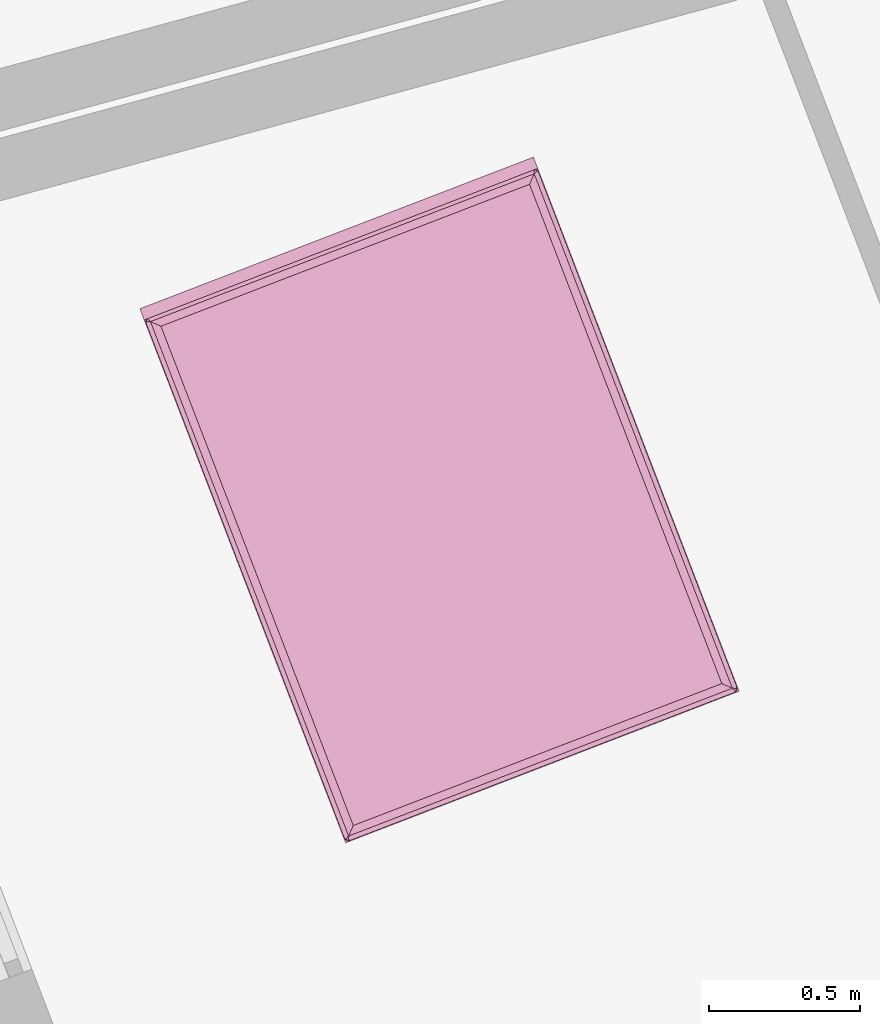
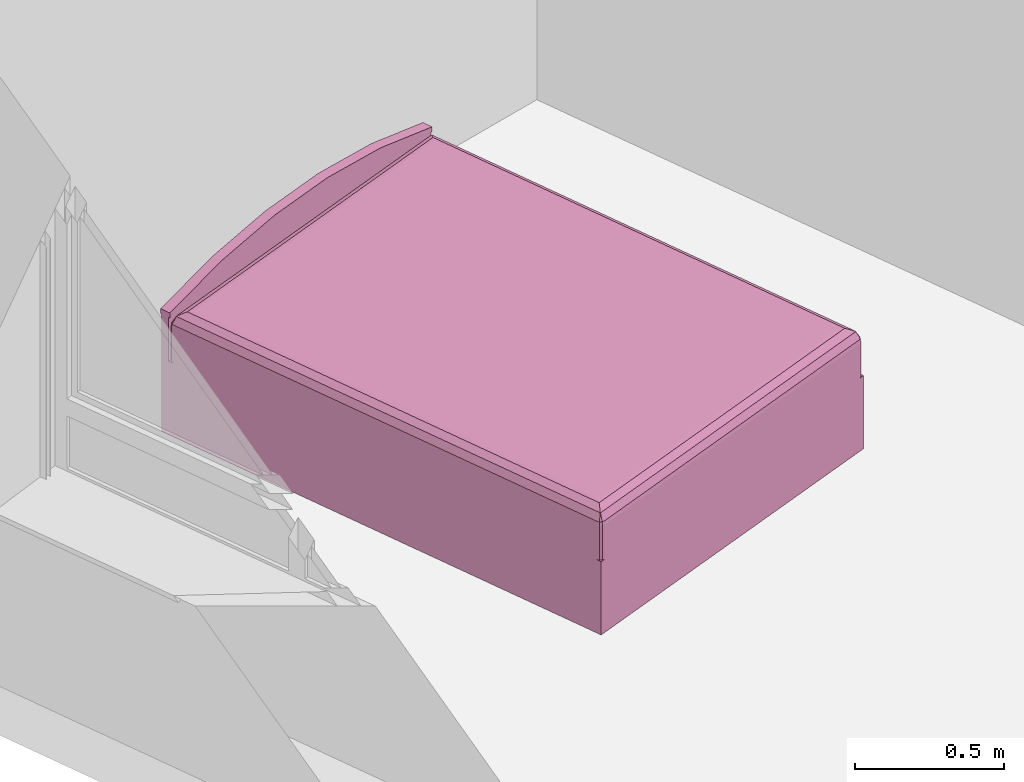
# One storey, part 163 of 195: 1 furnishing.
"""IFC2X3 building model written with IfcOpenShell, lengths in metres."""

from ifc_helpers import new_model, entity, si_unit, converted_unit, derived_unit, money_unit, direction, frame, origin_with_axes, place, context, subcontext, project, spatial, faceted_brep, source, transform, mapped, type_object, element, save


model = new_model("IFC2X3")

# Units and contexts
model_context = context("Model", 3, precision=1e-05, world=origin_with_axes(), true_north=direction((0.0, 1.0)))
body_context = subcontext(model_context, "Body", "Model", "MODEL_VIEW")
ifc_project = project(units=[si_unit("LENGTHUNIT", "METRE"), si_unit("AREAUNIT", "SQUARE_METRE"), si_unit("VOLUMEUNIT", "CUBIC_METRE"), converted_unit("PLANEANGLEUNIT", "DEGREE", entity("IfcPlaneAngleMeasure", 0.0174532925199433), si_unit("PLANEANGLEUNIT", "RADIAN"), dimensions=[0, 0, 0, 0, 0, 0, 0]), money_unit("CHF"), converted_unit("TIMEUNIT", "Year", entity("IfcTimeMeasure", 31557600.0), si_unit("TIMEUNIT", "SECOND"), dimensions=[0, 0, 1, 0, 0, 0, 0]), si_unit("MASSUNIT", "GRAM", prefix="KILO"), si_unit("THERMODYNAMICTEMPERATUREUNIT", "DEGREE_CELSIUS"), si_unit("LUMINOUSINTENSITYUNIT", "LUMEN"), si_unit("ENERGYUNIT", "JOULE", prefix="MEGA"), derived_unit("THERMALCONDUCTANCEUNIT", [(si_unit("POWERUNIT", "WATT"), 1), (si_unit("LENGTHUNIT", "METRE"), -1), (si_unit("THERMODYNAMICTEMPERATUREUNIT", "KELVIN"), -1)]), derived_unit("SPECIFICHEATCAPACITYUNIT", [(si_unit("ENERGYUNIT", "JOULE"), 1), (si_unit("MASSUNIT", "GRAM", prefix="KILO"), -1), (si_unit("THERMODYNAMICTEMPERATUREUNIT", "KELVIN"), -1)]), derived_unit("MASSDENSITYUNIT", [(si_unit("MASSUNIT", "GRAM", prefix="KILO"), 1), (si_unit("VOLUMEUNIT", "CUBIC_METRE"), -1)])], contexts=[model_context])

# Site, building, storey
site_placement = place(None, origin_with_axes())
site = spatial("IfcSite", under=ifc_project, at=site_placement, Name="Site", CompositionType="ELEMENT")
building_placement = place(site_placement, origin_with_axes())
building = spatial("IfcBuilding", under=site, at=building_placement, Name="Bâtiment", CompositionType="ELEMENT")
storey_placement = place(building_placement, origin_with_axes())
storey = spatial("IfcBuildingStorey", under=building, at=storey_placement, Name="rdc", CompositionType="ELEMENT", Elevation=0.0)

# Furnishing
furnishing_element_type = type_object("IfcFurnishingElementType", Name="Lit double 01")
shared_shape = source(origin_with_axes(), body_context, "Body", "Brep", [
    faceted_brep([(0.0, 1.895, 0.0), (1.4, 1.895, 0.0), (1.4, 1.865, 0.0), (0.0, 1.865, 0.0), (0.0, 1.895, 0.48), (0.276362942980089, 1.895, 0.5438448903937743), (0.558179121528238, 1.895, 0.5759741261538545), (0.8418208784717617, 1.895, 0.5759741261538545), (1.123637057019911, 1.895, 0.5438448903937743), (1.4, 1.895, 0.48), (1.4, 1.895, 0.4799), (1.4, 1.865, 0.4799), (1.4, 1.865, 0.48), (1.123637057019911, 1.865, 0.5438448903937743), (0.8418208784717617, 1.865, 0.5759741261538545), (0.558179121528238, 1.865, 0.5759741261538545), (0.276362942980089, 1.865, 0.5438448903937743), (0.0, 1.865, 0.48)], [[[0, 1, 2, 3]], [[0, 4, 5, 6, 7, 8, 9, 10, 1]], [[1, 10, 11, 2]], [[3, 2, 11, 12, 13, 14, 15, 16, 17]], [[4, 0, 3, 17]], [[5, 4, 17, 16]], [[6, 5, 16, 15]], [[7, 6, 15, 14]], [[8, 7, 14, 13]], [[9, 8, 13, 12]], [[10, 9, 12, 11]]]),
    faceted_brep([(1.4, 1.9, 0.48), (1.399999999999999, 1.9, 0.4999999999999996), (1.399999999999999, 1.86, 0.4999999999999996), (1.4, 1.86, 0.48), (1.123637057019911, 1.9, 0.5438448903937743), (0.8418208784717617, 1.9, 0.5759741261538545), (0.558179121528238, 1.9, 0.5759741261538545), (0.276362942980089, 1.9, 0.5438448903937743), (0.0, 1.9, 0.48), (0.0, 1.9, 0.4999), (0.0, 1.9, 0.5), (0.276362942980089, 1.9, 0.5638448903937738), (0.5581791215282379, 1.9, 0.5959741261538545), (0.8418208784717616, 1.9, 0.5959741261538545), (1.123637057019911, 1.9, 0.5638448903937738), (1.123637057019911, 1.86, 0.5638448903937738), (0.8418208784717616, 1.86, 0.5959741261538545), (0.5581791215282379, 1.86, 0.5959741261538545), (0.276362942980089, 1.86, 0.5638448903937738), (0.0, 1.86, 0.5), (0.0, 1.86, 0.4999), (0.0, 1.86, 0.48), (0.276362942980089, 1.86, 0.5438448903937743), (0.558179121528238, 1.86, 0.5759741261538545), (0.8418208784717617, 1.86, 0.5759741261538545), (1.123637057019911, 1.86, 0.5438448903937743)], [[[0, 1, 2, 3]], [[0, 4, 5, 6, 7, 8, 9, 10, 11, 12, 13, 14, 1]], [[1, 14, 15, 2]], [[3, 2, 15, 16, 17, 18, 19, 20, 21, 22, 23, 24, 25]], [[4, 0, 3, 25]], [[5, 4, 25, 24]], [[6, 5, 24, 23]], [[7, 6, 23, 22]], [[8, 7, 22, 21]], [[9, 8, 21, 20]], [[10, 9, 20, 19]], [[11, 10, 19, 18]], [[12, 11, 18, 17]], [[13, 12, 17, 16]], [[14, 13, 16, 15]]]),
    faceted_brep([(1.4, 0.0, 0.0), (0.0, 0.0, 0.0), (0.0, 1.865, 0.0), (1.4, 1.865, 0.0), (1.4, 0.0, 0.3), (0.0, 0.0, 0.3), (0.0, 1.865, 0.3), (1.4, 1.865, 0.3)], [[[0, 1, 2, 3]], [[1, 0, 4, 5]], [[2, 1, 5, 6]], [[3, 2, 6, 7]], [[0, 3, 7, 4]], [[5, 4, 7, 6]]]),
    faceted_brep([(0.0, 0.02, 0.43), (0.0, 1.845, 0.43), (0.002679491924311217, 1.855, 0.43), (0.009999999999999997, 1.862320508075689, 0.43), (0.02, 1.865, 0.43), (1.38, 1.865, 0.43), (1.39, 1.862320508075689, 0.43), (1.397320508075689, 1.855, 0.43), (1.4, 1.845, 0.43), (1.4, 0.02, 0.43), (1.397320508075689, 0.009999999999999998, 0.43), (1.39, 0.002679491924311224, 0.43), (1.38, 0.0, 0.43), (0.01999999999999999, 0.0, 0.43), (0.009999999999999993, 0.002679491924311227, 0.43), (0.002679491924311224, 0.01, 0.43), (-3.895163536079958e-10, 0.02000000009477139, 0.44), (-3.895163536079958e-10, 1.845000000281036, 0.44), (0.002679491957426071, 1.855000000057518, 0.44), (0.0100000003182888, 1.862320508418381, 0.44), (0.02000000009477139, 1.864999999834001, 0.44), (1.380000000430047, 1.864999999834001, 0.44), (1.39000000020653, 1.862320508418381, 0.44), (1.39732050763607, 1.855000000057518, 0.44), (1.399999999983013, 1.845000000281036, 0.44), (1.399999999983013, 0.02000000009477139, 0.44), (1.39732050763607, 0.0100000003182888, 0.44), (1.39000000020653, 0.002679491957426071, 0.44), (1.380000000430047, -3.895163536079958e-10, 0.44), (0.02000000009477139, -3.895163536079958e-10, 0.44), (0.0100000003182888, 0.002679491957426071, 0.44), (0.002679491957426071, 0.0100000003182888, 0.44), (0.002044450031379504, 0.02026915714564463, 0.4555291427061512), (0.002044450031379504, 1.844730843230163, 0.4555291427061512), (0.004512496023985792, 1.853941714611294, 0.4555291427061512), (0.01105828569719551, 1.860487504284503, 0.4555291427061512), (0.02026915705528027, 1.862955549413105, 0.4555291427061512), (1.379730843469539, 1.862955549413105, 0.4555291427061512), (1.388941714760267, 1.860487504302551, 0.4555291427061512), (1.395487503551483, 1.853941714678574, 0.4555291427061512), (1.397955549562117, 1.844730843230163, 0.4555291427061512), (1.397955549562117, 0.02026915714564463, 0.4555291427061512), (1.395487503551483, 0.01105828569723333, 0.4555291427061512), (1.388941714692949, 0.004512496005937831, 0.4555291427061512), (1.379730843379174, 0.002044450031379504, 0.4555291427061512), (0.02026915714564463, 0.002044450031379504, 0.4555291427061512), (0.01105828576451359, 0.004512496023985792, 0.4555291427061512), (0.004512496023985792, 0.01105828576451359, 0.4555291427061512), (0.01757359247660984, 0.02231360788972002, 0.4824264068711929), (0.01757359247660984, 1.842686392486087, 0.4824264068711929), (0.01843554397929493, 1.845903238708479, 0.4824264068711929), (0.01909676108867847, 1.846564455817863, 0.4824264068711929), (0.02231360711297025, 1.847426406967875, 0.4824264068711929), (1.377686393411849, 1.847426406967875, 0.4824264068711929), (1.380903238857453, 1.846564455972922, 0.4824264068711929), (1.381564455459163, 1.845903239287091, 0.4824264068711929), (1.382426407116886, 1.842686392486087, 0.4824264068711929), (1.382426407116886, 0.02231360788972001, 0.4824264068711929), (1.381564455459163, 0.01909676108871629, 0.4824264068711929), (1.380903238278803, 0.01843554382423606, 0.4824264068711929), (1.377686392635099, 0.01757359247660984, 0.4824264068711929), (0.02231360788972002, 0.01757359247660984, 0.4824264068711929), (0.01909676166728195, 0.01843554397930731, 0.4824264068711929), (0.01843554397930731, 0.01909676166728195, 0.4824264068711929), (0.02303225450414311, 0.02303225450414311, 0.4855779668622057), (0.04447085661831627, 0.04447085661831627, 0.4979555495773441), (0.04447085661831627, 1.820529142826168, 0.4979555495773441), (0.02303225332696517, 1.841967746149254, 0.48557796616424), (0.02000000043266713, 1.844999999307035, 0.4834338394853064), (1.35552914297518, 1.820529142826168, 0.4979555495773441), (1.376967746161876, 1.841967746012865, 0.4855779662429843), (1.380000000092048, 1.845000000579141, 0.4834338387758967), (1.35552914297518, 0.04447085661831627, 0.4979555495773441), (1.376967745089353, 0.02303225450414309, 0.4855779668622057), (1.379999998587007, 0.02000000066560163, 0.4834338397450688), (0.02000000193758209, 0.02000000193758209, 0.4834338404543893), (0.05999999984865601, 0.05999999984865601, 0.5000000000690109), (0.05999999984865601, 1.804999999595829, 0.5000000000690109), (1.33999999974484, 1.804999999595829, 0.5000000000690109), (1.33999999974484, 0.05999999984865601, 0.5000000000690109)], [[[0, 1, 2, 3, 4, 5, 6, 7, 8, 9, 10, 11, 12, 13, 14, 15]], [[1, 0, 16, 17]], [[2, 1, 17, 18]], [[3, 2, 18, 19]], [[4, 3, 19, 20]], [[5, 4, 20, 21]], [[6, 5, 21, 22]], [[7, 6, 22, 23]], [[8, 7, 23, 24]], [[9, 8, 24, 25]], [[10, 9, 25, 26]], [[11, 10, 26, 27]], [[12, 11, 27, 28]], [[13, 12, 28, 29]], [[14, 13, 29, 30]], [[15, 14, 30, 31]], [[0, 15, 31, 16]], [[17, 16, 32, 33]], [[18, 17, 33, 34]], [[19, 18, 34, 35]], [[20, 19, 35, 36]], [[21, 20, 36, 37]], [[22, 21, 37, 38]], [[23, 22, 38, 39]], [[24, 23, 39, 40]], [[25, 24, 40, 41]], [[26, 25, 41, 42]], [[27, 26, 42, 43]], [[28, 27, 43, 44]], [[29, 28, 44, 45]], [[30, 29, 45, 46]], [[31, 30, 46, 47]], [[16, 31, 47, 32]], [[33, 32, 48, 49]], [[34, 33, 49, 50]], [[35, 34, 50, 51]], [[36, 35, 51, 52]], [[37, 36, 52, 53]], [[38, 37, 53, 54]], [[39, 38, 54, 55]], [[40, 39, 55, 56]], [[41, 40, 56, 57]], [[42, 41, 57, 58]], [[43, 42, 58, 59]], [[44, 43, 59, 60]], [[45, 44, 60, 61]], [[46, 45, 61, 62]], [[47, 46, 62, 63]], [[32, 47, 63, 48]], [[49, 48, 64, 65, 66, 67]], [[50, 49, 67, 68]], [[51, 50, 68]], [[52, 51, 68, 67]], [[53, 52, 67, 66, 69, 70]], [[54, 53, 70, 71]], [[55, 54, 71]], [[56, 55, 71, 70]], [[57, 56, 70, 69, 72, 73]], [[58, 57, 73, 74]], [[59, 58, 74]], [[60, 59, 74, 73]], [[61, 60, 73, 72, 65, 64]], [[62, 61, 64, 75]], [[63, 62, 75]], [[48, 63, 75, 64]], [[66, 65, 76, 77]], [[69, 66, 77, 78]], [[72, 69, 78, 79]], [[65, 72, 79, 76]], [[78, 77, 76, 79]]]),
    faceted_brep([(0.0, 0.02000000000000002, 0.3099999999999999), (-3.895163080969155e-10, 0.02000000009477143, 0.2999999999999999), (0.002679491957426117, 0.01000000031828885, 0.2999999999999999), (0.002679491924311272, 0.01000000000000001, 0.3099999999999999), (0.0, 1.845, 0.3099999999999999), (-3.895163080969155e-10, 1.845000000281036, 0.2999999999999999), (0.002679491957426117, 1.855000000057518, 0.2999999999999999), (0.01000000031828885, 1.862320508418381, 0.2999999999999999), (0.02000000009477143, 1.864999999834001, 0.2999999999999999), (1.380000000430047, 1.864999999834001, 0.2999999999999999), (1.39000000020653, 1.862320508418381, 0.2999999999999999), (1.39732050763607, 1.855000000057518, 0.2999999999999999), (1.399999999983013, 1.845000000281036, 0.2999999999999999), (1.399999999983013, 0.02000000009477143, 0.2999999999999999), (1.39732050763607, 0.01000000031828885, 0.2999999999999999), (1.39000000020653, 0.002679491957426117, 0.2999999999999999), (1.380000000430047, -3.895163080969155e-10, 0.2999999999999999), (0.02000000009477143, -3.895163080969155e-10, 0.2999999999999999), (0.01000000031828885, 0.002679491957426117, 0.2999999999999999), (0.01000000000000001, 0.002679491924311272, 0.3099999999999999), (0.02000000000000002, 0.0, 0.3099999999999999), (1.38, 0.0, 0.3099999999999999), (1.39, 0.002679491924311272, 0.3099999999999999), (1.397320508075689, 0.01000000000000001, 0.3099999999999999), (1.4, 0.02000000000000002, 0.3099999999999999), (1.4, 1.845, 0.3099999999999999), (1.397320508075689, 1.855, 0.3099999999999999), (1.39, 1.862320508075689, 0.3099999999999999), (1.38, 1.865, 0.3099999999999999), (0.02000000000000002, 1.865, 0.3099999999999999), (0.01000000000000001, 1.862320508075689, 0.3099999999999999), (0.002679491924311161, 1.855, 0.3099999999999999)], [[[0, 1, 2, 3]], [[1, 0, 4, 5]], [[2, 1, 5, 6, 7, 8, 9, 10, 11, 12, 13, 14, 15, 16, 17, 18]], [[3, 2, 18, 19]], [[3, 19, 20, 21, 22, 23, 24, 25, 26, 27, 28, 29, 30, 31, 4, 0]], [[5, 4, 31, 6]], [[6, 31, 30, 7]], [[7, 30, 29, 8]], [[8, 29, 28, 9]], [[27, 10, 9, 28]], [[10, 27, 26, 11]], [[11, 26, 25, 12]], [[24, 13, 12, 25]], [[23, 14, 13, 24]], [[22, 15, 14, 23]], [[21, 16, 15, 22]], [[20, 17, 16, 21]], [[18, 17, 20, 19]]]),
    faceted_brep([(0.0, 0.02, 0.3099999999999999), (0.002679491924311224, 0.01, 0.3099999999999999), (0.002679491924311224, 0.01, 0.4299999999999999), (0.0, 0.02, 0.4299999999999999), (0.0, 1.845, 0.3099999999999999), (0.002679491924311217, 1.855, 0.3099999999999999), (0.009999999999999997, 1.862320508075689, 0.3099999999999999), (0.02, 1.865, 0.3099999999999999), (1.38, 1.865, 0.3099999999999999), (1.39, 1.862320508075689, 0.3099999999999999), (1.397320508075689, 1.855, 0.3099999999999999), (1.4, 1.845, 0.3099999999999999), (1.4, 0.02, 0.3099999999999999), (1.397320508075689, 0.009999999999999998, 0.3099999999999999), (1.39, 0.002679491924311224, 0.3099999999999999), (1.38, 0.0, 0.3099999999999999), (0.01999999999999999, 0.0, 0.3099999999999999), (0.009999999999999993, 0.002679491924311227, 0.3099999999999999), (0.009999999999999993, 0.002679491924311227, 0.4299999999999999), (0.01999999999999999, 0.0, 0.4299999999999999), (1.38, 0.0, 0.4299999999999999), (1.39, 0.002679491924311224, 0.4299999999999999), (1.397320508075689, 0.009999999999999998, 0.4299999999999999), (1.4, 0.02, 0.4299999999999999), (1.4, 1.845, 0.4299999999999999), (1.397320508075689, 1.855, 0.4299999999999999), (1.39, 1.862320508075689, 0.4299999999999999), (1.38, 1.865, 0.4299999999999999), (0.02, 1.865, 0.4299999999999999), (0.009999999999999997, 1.862320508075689, 0.4299999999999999), (0.002679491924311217, 1.855, 0.4299999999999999), (0.0, 1.845, 0.4299999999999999)], [[[0, 1, 2, 3]], [[0, 4, 5, 6, 7, 8, 9, 10, 11, 12, 13, 14, 15, 16, 17, 1]], [[1, 17, 18, 2]], [[3, 2, 18, 19, 20, 21, 22, 23, 24, 25, 26, 27, 28, 29, 30, 31]], [[4, 0, 3, 31]], [[5, 4, 31, 30]], [[6, 5, 30, 29]], [[7, 6, 29, 28]], [[8, 7, 28, 27]], [[9, 8, 27, 26]], [[10, 9, 26, 25]], [[11, 10, 25, 24]], [[12, 11, 24, 23]], [[13, 12, 23, 22]], [[14, 13, 22, 21]], [[15, 14, 21, 20]], [[16, 15, 20, 19]], [[17, 16, 19, 18]]]),
])
furnishing_placement = place(storey_placement, frame((9584.357106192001, -1037.646998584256, 57.7), z_axis=(0.0, 0.0, 1.0), x_axis=(0.9331714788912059, 0.359431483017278, 0.0)))
element("IfcFurnishingElement", 1, at=furnishing_placement, inside=storey, type_object=furnishing_element_type, Name="Obj.-002", context=body_context, shape_type="MappedRepresentation", body=[
    mapped(shared_shape, transform((0.0, 0.0, 0.0))),
])

save(model, "model.ifc")
